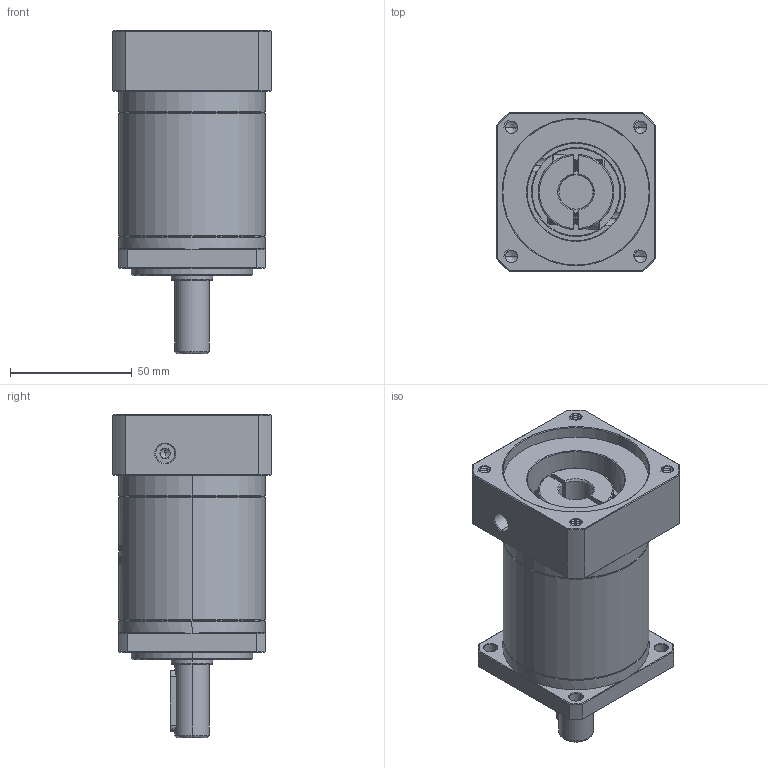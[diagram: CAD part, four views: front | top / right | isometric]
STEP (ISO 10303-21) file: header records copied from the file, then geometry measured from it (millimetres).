
FILE_DESCRIPTION (( 'STEP AP214' ), '1' );
FILE_NAME ('ZF60-D14-L2-14-60-75-M6.STEP', '2022-04-17T11:48:07', ( '' ), ( 'Microsoft' ), 'SwSTEP 2.0', 'SolidWorks 2016', '' );
FILE_SCHEMA (( 'AUTOMOTIVE_DESIGN' ));
Length unit declared in the file: millimetre
Products named in the file (1): ZF60-D14-L2-14-60-75-M6
Bounding box: 65 x 65 x 132.5 mm (x, y, z)
Volume: 282610.3 mm3; surface area: 50304.7 mm2
Topology: 6 solids, 6 shells, 1665 faces, 4488 edges, 2900 vertices
Faces by surface type: plane 749, cylinder 363, bspline 299, cone 234, torus 20
Entity records: 94551 total; most frequent: CARTESIAN_POINT 38266, ORIENTED_EDGE 8948, DIRECTION 6583, EDGE_CURVE 4474, VERTEX_POINT 2900, LINE 2275, VECTOR 2275, AXIS2_PLACEMENT_3D 2154
